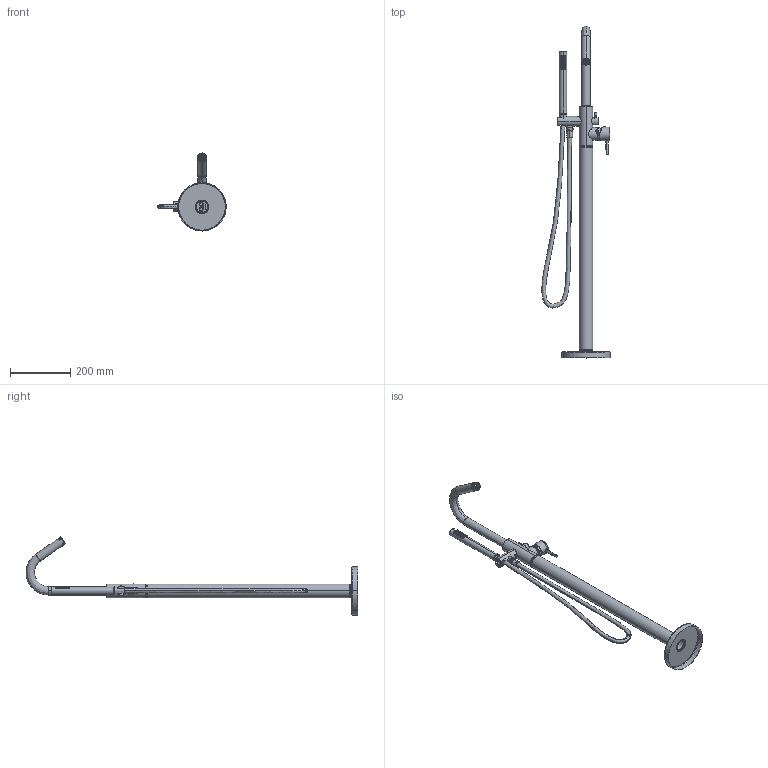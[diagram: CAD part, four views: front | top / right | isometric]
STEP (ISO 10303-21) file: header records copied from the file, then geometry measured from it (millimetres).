
FILE_DESCRIPTION (( 'STEP AP203' ), '1' );
FILE_NAME ('39CP07490.STEP', '2023-12-11T08:01:37', ( '' ), ( '' ), 'SwSTEP 2.0', 'SolidWorks 2021', '' );
FILE_SCHEMA (( 'CONFIG_CONTROL_DESIGN' ));
Length unit declared in the file: millimetre
Products named in the file (1): 39CP07490
Bounding box: 226.28 x 1097.6 x 257.97 mm (x, y, z)
Volume: 697971.6 mm3; surface area: 486917.8 mm2
Topology: 18 solids, 18 shells, 1255 faces, 3094 edges, 1994 vertices
Faces by surface type: cylinder 538, plane 339, cone 207, bspline 108, torus 34, sphere 29
Entity records: 63858 total; most frequent: CARTESIAN_POINT 35967, ORIENTED_EDGE 6132, DIRECTION 5370, EDGE_CURVE 3066, AXIS2_PLACEMENT_3D 2069, VERTEX_POINT 1988, EDGE_LOOP 1466, FACE_OUTER_BOUND 1255
